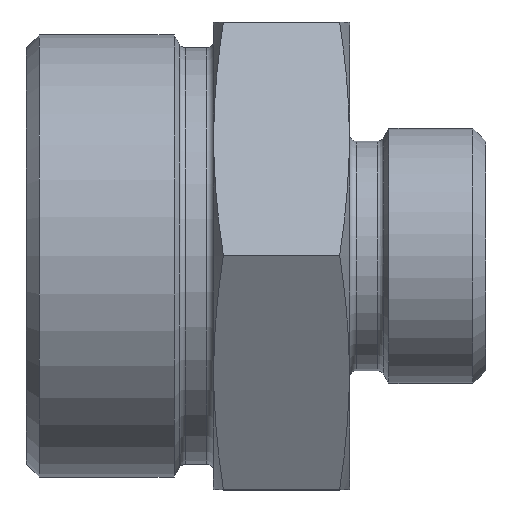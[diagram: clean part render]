
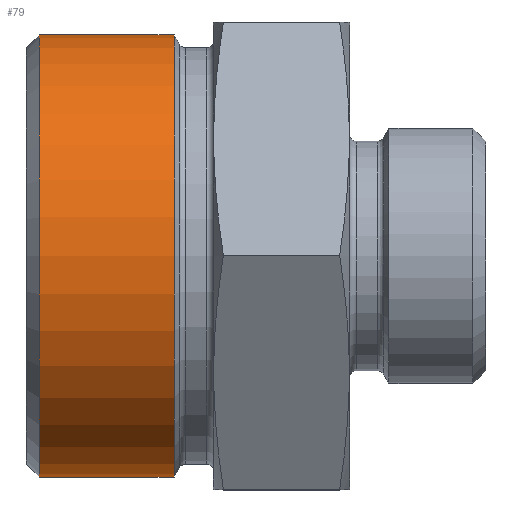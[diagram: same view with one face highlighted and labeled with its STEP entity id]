
A CAD part, top view. The second image highlights one B-rep face of the part: STEP entity #79.
In plain terms, the highlighted cylindrical face has radius 26 mm (diameter 52 mm), a full revolution.
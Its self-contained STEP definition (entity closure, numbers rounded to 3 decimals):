
#79 = ADVANCED_FACE( '', ( #181, #182 ), #183, .T. );
#181 = FACE_OUTER_BOUND( '', #314, .T. );
#182 = FACE_OUTER_BOUND( '', #315, .T. );
#183 = CYLINDRICAL_SURFACE( '', #316, 26. );
#314 = EDGE_LOOP( '', ( #477 ) );
#315 = EDGE_LOOP( '', ( #478 ) );
#316 = AXIS2_PLACEMENT_3D( '', #479, #480, #481 );
#477 = ORIENTED_EDGE( '', *, *, #638, .T. );
#478 = ORIENTED_EDGE( '', *, *, #657, .T. );
#479 = CARTESIAN_POINT( '', ( -60., 0., 0. ) );
#480 = DIRECTION( '', ( 1., 0., 0. ) );
#481 = DIRECTION( '', ( 0., 0., 1. ) );
#638 = EDGE_CURVE( '', #728, #728, #729, .F. );
#657 = EDGE_CURVE( '', #757, #757, #758, .T. );
#728 = VERTEX_POINT( '', #903 );
#729 = CIRCLE( '', #904, 26. );
#757 = VERTEX_POINT( '', #951 );
#758 = CIRCLE( '', #952, 26. );
#903 = CARTESIAN_POINT( '', ( -25.5, 0., 26. ) );
#904 = AXIS2_PLACEMENT_3D( '', #1049, #1050, #1051 );
#951 = CARTESIAN_POINT( '', ( -9.635, 0., 26. ) );
#952 = AXIS2_PLACEMENT_3D( '', #1075, #1076, #1077 );
#1049 = CARTESIAN_POINT( '', ( -25.5, 0., 0. ) );
#1050 = DIRECTION( '', ( -1., 0., 0. ) );
#1051 = DIRECTION( '', ( 0., 0., 1. ) );
#1075 = CARTESIAN_POINT( '', ( -9.635, 0., 0. ) );
#1076 = DIRECTION( '', ( -1., 0., 0. ) );
#1077 = DIRECTION( '', ( 0., 0., 1. ) );
